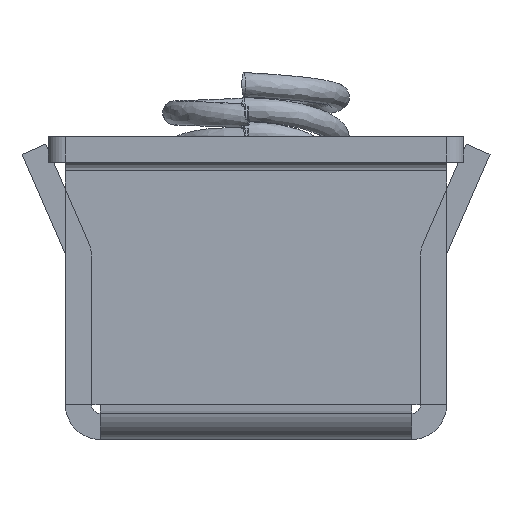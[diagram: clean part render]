
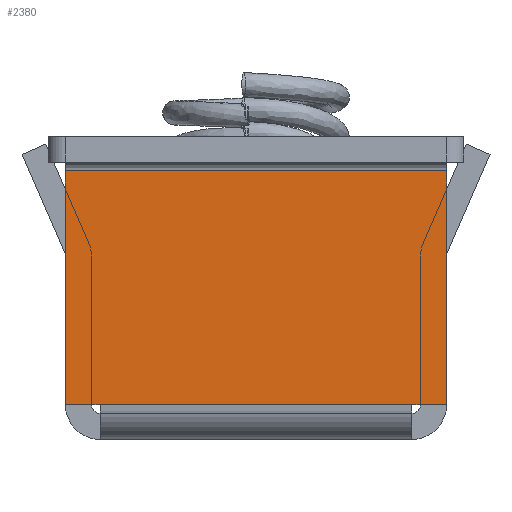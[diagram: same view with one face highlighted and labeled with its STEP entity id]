
A CAD part, left-side view. The second image highlights one B-rep face of the part: STEP entity #2380.
In plain terms, the highlighted planar face has unit normal (-1, 0, 0).
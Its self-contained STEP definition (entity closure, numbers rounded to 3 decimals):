
#1004=CARTESIAN_POINT('',(-239.,11.,2.));
#1005=VERTEX_POINT('',#1004);
#1012=CARTESIAN_POINT('',(-239.,11.,15.5));
#1013=VERTEX_POINT('',#1012);
#1014=CARTESIAN_POINT('',(-239.,11.,2.));
#1015=DIRECTION('',(0.0,0.0,1.0));
#1016=VECTOR('',#1015,13.5);
#1017=LINE('',#1014,#1016);
#1018=EDGE_CURVE('',#1005,#1013,#1017,.T.);
#1841=CARTESIAN_POINT('',(-239.,9.,2.));
#1842=VERTEX_POINT('',#1841);
#1849=CARTESIAN_POINT('',(-239.,11.,2.));
#1850=DIRECTION('',(0.0,-1.0,0.0));
#1851=VECTOR('',#1850,2.);
#1852=LINE('',#1849,#1851);
#1853=EDGE_CURVE('',#1005,#1842,#1852,.T.);
#1924=CARTESIAN_POINT('',(-239.,-9.,2.));
#1925=VERTEX_POINT('',#1924);
#1933=CARTESIAN_POINT('',(-239.,9.,2.));
#1934=DIRECTION('',(0.0,-1.0,0.0));
#1935=VECTOR('',#1934,18.);
#1936=LINE('',#1933,#1935);
#1937=EDGE_CURVE('',#1842,#1925,#1936,.T.);
#1947=CARTESIAN_POINT('',(-239.,-11.,2.));
#1948=VERTEX_POINT('',#1947);
#1957=CARTESIAN_POINT('',(-239.,-9.,2.));
#1958=DIRECTION('',(0.0,-1.0,0.0));
#1959=VECTOR('',#1958,2.);
#1960=LINE('',#1957,#1959);
#1961=EDGE_CURVE('',#1925,#1948,#1960,.T.);
#2073=CARTESIAN_POINT('',(-239.,-11.,15.5));
#2074=VERTEX_POINT('',#2073);
#2082=CARTESIAN_POINT('',(-239.,-11.,15.5));
#2083=DIRECTION('',(0.0,0.0,-1.0));
#2084=VECTOR('',#2083,13.5);
#2085=LINE('',#2082,#2084);
#2086=EDGE_CURVE('',#2074,#1948,#2085,.T.);
#2357=CARTESIAN_POINT('',(-239.,-11.,15.5));
#2358=DIRECTION('',(0.0,1.0,0.0));
#2359=VECTOR('',#2358,22.);
#2360=LINE('',#2357,#2359);
#2361=EDGE_CURVE('',#2074,#1013,#2360,.T.);
#2367=CARTESIAN_POINT('',(-239.,0.0,8.839));
#2368=DIRECTION('',(1.0,0.0,0.0));
#2369=DIRECTION('',(0.0,0.0,-1.0));
#2370=AXIS2_PLACEMENT_3D('',#2367,#2368,#2369);
#2371=PLANE('',#2370);
#2372=ORIENTED_EDGE('',*,*,#2361,.T.);
#2373=ORIENTED_EDGE('',*,*,#1018,.F.);
#2374=ORIENTED_EDGE('',*,*,#1853,.T.);
#2375=ORIENTED_EDGE('',*,*,#1937,.T.);
#2376=ORIENTED_EDGE('',*,*,#1961,.T.);
#2377=ORIENTED_EDGE('',*,*,#2086,.F.);
#2378=EDGE_LOOP('',(#2372,#2373,#2374,#2375,#2376,#2377));
#2379=FACE_OUTER_BOUND('',#2378,.T.);
#2380=ADVANCED_FACE('',(#2379),#2371,.F.);
